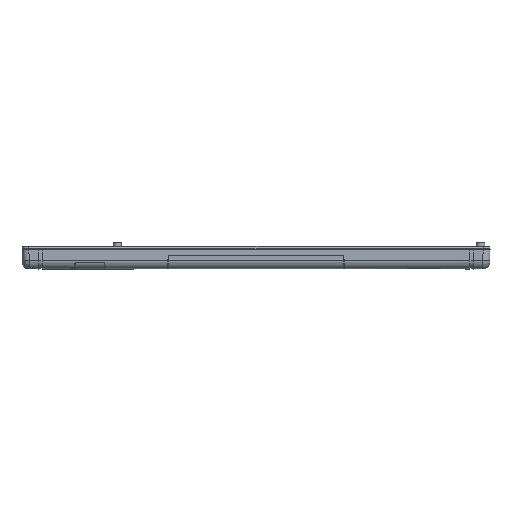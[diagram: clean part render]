
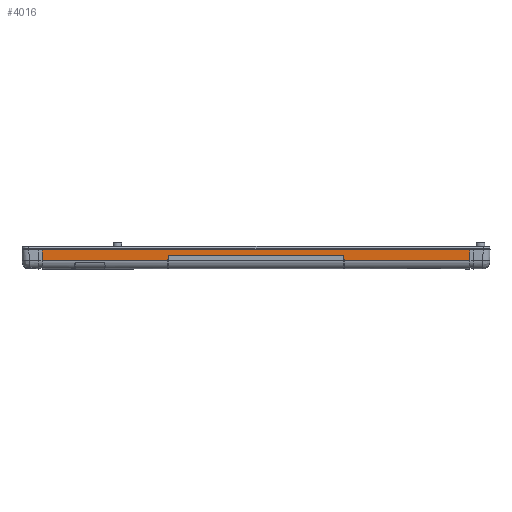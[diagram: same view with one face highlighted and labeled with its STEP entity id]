
A CAD part, left-side view. The second image highlights one B-rep face of the part: STEP entity #4016.
In plain terms, the highlighted planar face has unit normal (-1, 0, -0.018).
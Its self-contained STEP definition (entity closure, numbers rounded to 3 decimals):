
#2336=PLANE('',#35882);
#4016=ADVANCED_FACE('',(#5890),#2336,.T.);
#5890=FACE_OUTER_BOUND('',#7945,.T.);
#7945=EDGE_LOOP('',(#14725,#14726,#14727,#14728,#14729,#14730,#14731,#14732));
#14725=ORIENTED_EDGE('',*,*,#25218,.F.);
#14726=ORIENTED_EDGE('',*,*,#25219,.T.);
#14727=ORIENTED_EDGE('',*,*,#25220,.T.);
#14728=ORIENTED_EDGE('',*,*,#25221,.T.);
#14729=ORIENTED_EDGE('',*,*,#25222,.F.);
#14730=ORIENTED_EDGE('',*,*,#25223,.F.);
#14731=ORIENTED_EDGE('',*,*,#25170,.T.);
#14732=ORIENTED_EDGE('',*,*,#24905,.F.);
#20876=VERTEX_POINT('',#53977);
#20878=VERTEX_POINT('',#53980);
#21120=VERTEX_POINT('',#54667);
#21157=VERTEX_POINT('',#54787);
#21158=VERTEX_POINT('',#54789);
#21159=VERTEX_POINT('',#54791);
#21160=VERTEX_POINT('',#54793);
#21161=VERTEX_POINT('',#54795);
#24905=EDGE_CURVE('',#20876,#20878,#28934,.T.);
#25170=EDGE_CURVE('',#21120,#20878,#29092,.T.);
#25218=EDGE_CURVE('',#21157,#20876,#29128,.T.);
#25219=EDGE_CURVE('',#21157,#21158,#29129,.T.);
#25220=EDGE_CURVE('',#21158,#21159,#29130,.T.);
#25221=EDGE_CURVE('',#21159,#21160,#29131,.T.);
#25222=EDGE_CURVE('',#21161,#21160,#29132,.T.);
#25223=EDGE_CURVE('',#21120,#21161,#29133,.T.);
#28934=LINE('',#53979,#32441);
#29092=LINE('',#54666,#32599);
#29128=LINE('',#54786,#32635);
#29129=LINE('',#54788,#32636);
#29130=LINE('',#54790,#32637);
#29131=LINE('',#54792,#32638);
#29132=LINE('',#54794,#32639);
#29133=LINE('',#54796,#32640);
#32441=VECTOR('',#41620,1.);
#32599=VECTOR('',#41968,1.);
#32635=VECTOR('',#42034,1.);
#32636=VECTOR('',#42035,1.);
#32637=VECTOR('',#42036,1.);
#32638=VECTOR('',#42037,1.);
#32639=VECTOR('',#42038,1.);
#32640=VECTOR('',#42039,1.);
#35882=AXIS2_PLACEMENT_3D('',#54797,#42040,#42041);
#41620=DIRECTION('',(0.,-1.,0.));
#41968=DIRECTION('',(-0.017,0.,1.));
#42034=DIRECTION('',(-0.017,0.,1.));
#42035=DIRECTION('',(0.,-1.,0.));
#42036=DIRECTION('',(-0.017,-0.009,1.));
#42037=DIRECTION('',(0.,-1.,0.));
#42038=DIRECTION('',(-0.017,0.009,1.));
#42039=DIRECTION('',(0.,1.,0.));
#42040=DIRECTION('',(-1.,0.,-0.017));
#42041=DIRECTION('',(0.,-1.,0.));
#53977=CARTESIAN_POINT('',(125.016,123.197,-2.));
#53979=CARTESIAN_POINT('',(125.016,123.397,-2.));
#53980=CARTESIAN_POINT('',(125.016,-123.197,-2.));
#54666=CARTESIAN_POINT('',(125.016,-123.197,-2.));
#54667=CARTESIAN_POINT('',(125.122,-123.197,-8.087));
#54786=CARTESIAN_POINT('',(125.016,123.197,-2.));
#54787=CARTESIAN_POINT('',(125.122,123.197,-8.087));
#54788=CARTESIAN_POINT('',(125.122,123.397,-8.087));
#54789=CARTESIAN_POINT('',(125.122,50.776,-8.087));
#54790=CARTESIAN_POINT('',(125.008,50.719,-1.528));
#54791=CARTESIAN_POINT('',(125.07,50.75,-5.1));
#54792=CARTESIAN_POINT('',(125.07,50.6,-5.1));
#54793=CARTESIAN_POINT('',(125.07,-50.75,-5.1));
#54794=CARTESIAN_POINT('',(125.009,-50.719,-1.587));
#54795=CARTESIAN_POINT('',(125.122,-50.776,-8.087));
#54796=CARTESIAN_POINT('',(125.122,-123.397,-8.087));
#54797=CARTESIAN_POINT('',(125.016,-3.387,-2.));
